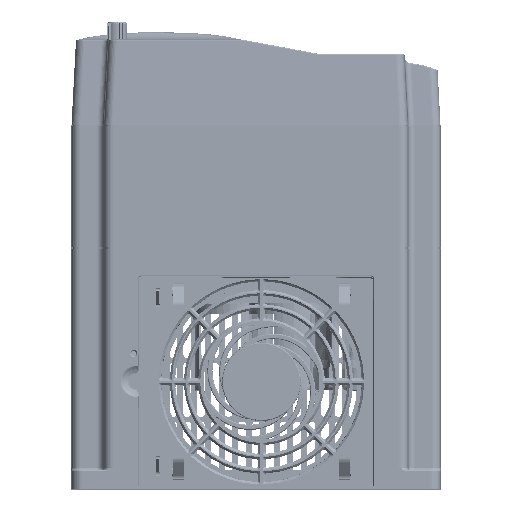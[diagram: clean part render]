
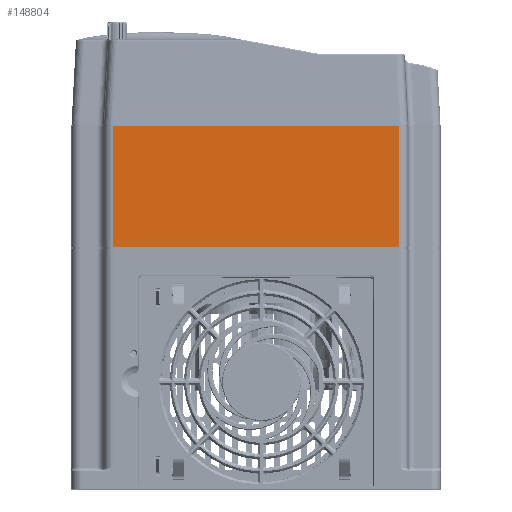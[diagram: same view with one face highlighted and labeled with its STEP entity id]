
A CAD part, top view. The second image highlights one B-rep face of the part: STEP entity #148804.
In plain terms, the highlighted planar face has unit normal (0, 0, 1) as drawn and (0, 0, -1) by its records, which use the part's own axes.
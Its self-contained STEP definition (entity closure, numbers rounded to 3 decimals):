
#108449=DIRECTION('',(0.,1.,0.));
#108450=VECTOR('',#108449,55.5);
#108451=CARTESIAN_POINT('',(-65.569,2.5,-160.));
#108452=LINE('',#108451,#108450);
#108457=DIRECTION('',(1.,0.,0.));
#108458=VECTOR('',#108457,131.138);
#108459=CARTESIAN_POINT('',(-65.569,2.5,-160.));
#108460=LINE('',#108459,#108458);
#108465=DIRECTION('',(0.,-1.,0.));
#108466=VECTOR('',#108465,55.5);
#108467=CARTESIAN_POINT('',(65.569,58.,-160.));
#108468=LINE('',#108467,#108466);
#108570=DIRECTION('',(1.,0.,0.));
#108571=VECTOR('',#108570,131.138);
#108572=CARTESIAN_POINT('',(-65.569,58.,-160.));
#108573=LINE('',#108572,#108571);
#141513=CARTESIAN_POINT('',(65.569,2.5,-160.));
#141514=VERTEX_POINT('',#141513);
#141515=CARTESIAN_POINT('',(-65.569,2.5,-160.));
#141516=VERTEX_POINT('',#141515);
#142125=CARTESIAN_POINT('',(-65.569,58.,-160.));
#142126=VERTEX_POINT('',#142125);
#142127=CARTESIAN_POINT('',(65.569,58.,-160.));
#142128=VERTEX_POINT('',#142127);
#148791=CARTESIAN_POINT('',(84.5,-85.,-160.));
#148792=DIRECTION('',(0.,0.,-1.));
#148793=DIRECTION('',(-1.,0.,0.));
#148794=AXIS2_PLACEMENT_3D('',#148791,#148792,#148793);
#148795=PLANE('',#148794);
#148796=ORIENTED_EDGE('',*,*,#148414,.T.);
#148798=ORIENTED_EDGE('',*,*,#148797,.F.);
#148800=ORIENTED_EDGE('',*,*,#148799,.F.);
#148801=ORIENTED_EDGE('',*,*,#148783,.F.);
#148802=EDGE_LOOP('',(#148796,#148798,#148800,#148801));
#148803=FACE_OUTER_BOUND('',#148802,.F.);
#148804=ADVANCED_FACE('',(#148803),#148795,.T.);
#148414=EDGE_CURVE('',#141516,#141514,#108460,.T.);
#148783=EDGE_CURVE('',#141516,#142126,#108452,.T.);
#148797=EDGE_CURVE('',#142128,#141514,#108468,.T.);
#148799=EDGE_CURVE('',#142126,#142128,#108573,.T.);
